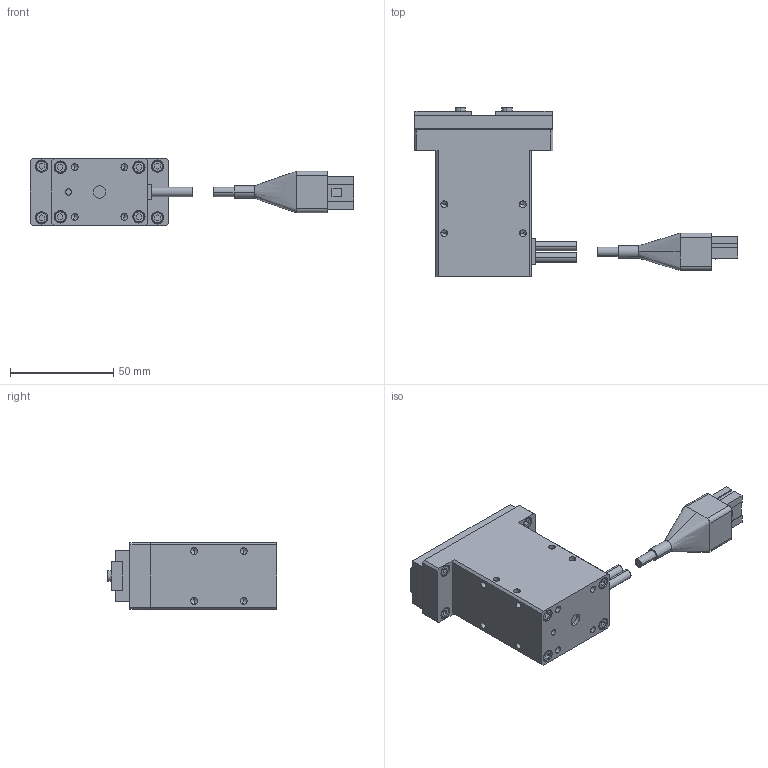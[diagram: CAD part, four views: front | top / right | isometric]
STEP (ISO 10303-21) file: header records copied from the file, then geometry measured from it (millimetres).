
FILE_DESCRIPTION (( 'STEP AP214' ), '1' );
FILE_NAME ('ESG1-SD-2810.STEP', '2009-02-12T08:23:32', ( '風音庵' ), ( '' ), 'SwSTEP 2.0', 'SolidWorks 2007', '' );
FILE_SCHEMA (( 'AUTOMOTIVE_DESIGN' ));
Length unit declared in the file: millimetre
Products named in the file (6): CONNECTOR　DK-2100D-12R_ﾃﾞﾌｫﾙﾄ; CNNECTOR丂BB丂ASSY_棉太倌; CONNECTOR COVER　BB_ﾃﾞﾌｫﾙﾄ; ESG1-SD-2810 FINGER_蹬怮椔; ESG1-SD-2810 BODY_蹬怮椔; ESG1-SD-2810
Assembly tree (6 placements, depth 3):
  ESG1-SD-2810
    CNNECTOR丂BB丂ASSY_棉太倌
      CONNECTOR　DK-2100D-12R_ﾃﾞﾌｫﾙﾄ
      CONNECTOR COVER　BB_ﾃﾞﾌｫﾙﾄ
    ESG1-SD-2810 FINGER_蹬怮椔  x2
    ESG1-SD-2810 BODY_蹬怮椔
Bounding box: 156.39 x 82 x 32 mm (x, y, z)
Volume: 130392 mm3; surface area: 30441.3 mm2
Topology: 5 solids, 5 shells, 410 faces, 990 edges, 618 vertices
Faces by surface type: plane 244, cylinder 104, cone 60, bspline 2
Entity records: 15988 total; most frequent: CARTESIAN_POINT 2351, DIRECTION 1928, ORIENTED_EDGE 1832, EDGE_CURVE 916, VECTOR 698, LINE 698, AXIS2_PLACEMENT_3D 615, VERTEX_POINT 596
